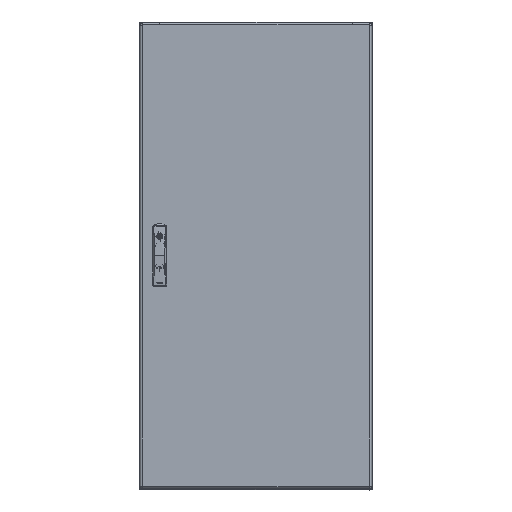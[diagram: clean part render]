
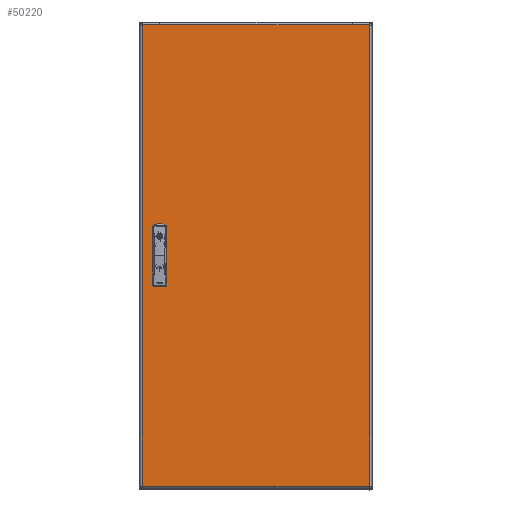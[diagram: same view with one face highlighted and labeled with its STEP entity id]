
A CAD part, top view. The second image highlights one B-rep face of the part: STEP entity #50220.
In plain terms, the highlighted planar face has unit normal (0, 0, 1).
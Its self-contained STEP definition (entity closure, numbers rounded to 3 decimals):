
#1193 = VERTEX_POINT ( 'NONE', #94882 ) ;
#1607 = ORIENTED_EDGE ( 'NONE', *, *, #100856, .T. ) ;
#3567 = VECTOR ( 'NONE', #88988, 1000. ) ;
#3779 = ORIENTED_EDGE ( 'NONE', *, *, #43224, .T. ) ;
#4313 = CARTESIAN_POINT ( 'NONE',  ( 292.3, -591., 0. ) ) ;
#4756 = VERTEX_POINT ( 'NONE', #53891 ) ;
#6041 = ORIENTED_EDGE ( 'NONE', *, *, #93954, .T. ) ;
#7101 = EDGE_CURVE ( 'NONE', #4756, #118203, #29507, .T. ) ;
#7287 = CIRCLE ( 'NONE', #89496, 1.3 ) ;
#7827 = VECTOR ( 'NONE', #120080, 1000. ) ;
#8839 = EDGE_LOOP ( 'NONE', ( #44151, #40952, #109509, #52219 ) ) ;
#11953 = CARTESIAN_POINT ( 'NONE',  ( -259.5, -75., 0. ) ) ;
#12595 = LINE ( 'NONE', #35415, #83496 ) ;
#14628 = FACE_OUTER_BOUND ( 'NONE', #17261, .T. ) ;
#14953 = EDGE_CURVE ( 'NONE', #25122, #124735, #103344, .T. ) ;
#14980 = DIRECTION ( 'NONE',  ( 0., 1., 0. ) ) ;
#17261 = EDGE_LOOP ( 'NONE', ( #79863, #121659, #1607, #3779, #101942, #82946, #6041, #127490 ) ) ;
#17698 = CARTESIAN_POINT ( 'NONE',  ( -259.5, -75., 0. ) ) ;
#18135 = DIRECTION ( 'NONE',  ( 1., 0., 0. ) ) ;
#18346 = CARTESIAN_POINT ( 'NONE',  ( -234.5, -75., 0. ) ) ;
#18587 = DIRECTION ( 'NONE',  ( 0., 0., 1. ) ) ;
#19580 = VERTEX_POINT ( 'NONE', #48474 ) ;
#19921 = AXIS2_PLACEMENT_3D ( 'NONE', #114280, #134208, #55476 ) ;
#20354 = EDGE_CURVE ( 'NONE', #53512, #84236, #38555, .T. ) ;
#25122 = VERTEX_POINT ( 'NONE', #68181 ) ;
#25278 = CARTESIAN_POINT ( 'NONE',  ( 292.3, -591., 0. ) ) ;
#27070 = CARTESIAN_POINT ( 'NONE',  ( -292.3, 591., 0. ) ) ;
#28599 = EDGE_CURVE ( 'NONE', #105953, #19580, #130422, .T. ) ;
#29507 = LINE ( 'NONE', #53055, #114330 ) ;
#31489 = AXIS2_PLACEMENT_3D ( 'NONE', #33297, #31845, #75999 ) ;
#31845 = DIRECTION ( 'NONE',  ( 0., 0., 1. ) ) ;
#33297 = CARTESIAN_POINT ( 'NONE',  ( 291., 591., 0. ) ) ;
#34473 = CARTESIAN_POINT ( 'NONE',  ( -292.3, 591., 0. ) ) ;
#35415 = CARTESIAN_POINT ( 'NONE',  ( -234.5, 75., 0. ) ) ;
#36335 = CIRCLE ( 'NONE', #19921, 1.3 ) ;
#36411 = DIRECTION ( 'NONE',  ( -1., 0., 0. ) ) ;
#38369 = VECTOR ( 'NONE', #49892, 1000. ) ;
#38555 = LINE ( 'NONE', #25278, #64541 ) ;
#38947 = PLANE ( 'NONE',  #52096 ) ;
#40952 = ORIENTED_EDGE ( 'NONE', *, *, #7101, .F. ) ;
#41241 = CARTESIAN_POINT ( 'NONE',  ( -259.5, 75., 0. ) ) ;
#42458 = CARTESIAN_POINT ( 'NONE',  ( -259.5, -25., 0. ) ) ;
#43224 = EDGE_CURVE ( 'NONE', #47277, #53512, #89867, .T. ) ;
#43331 = EDGE_CURVE ( 'NONE', #118203, #86868, #68075, .T. ) ;
#43352 = VECTOR ( 'NONE', #63941, 1000. ) ;
#44151 = ORIENTED_EDGE ( 'NONE', *, *, #43331, .F. ) ;
#44384 = LINE ( 'NONE', #11953, #76375 ) ;
#45955 = EDGE_CURVE ( 'NONE', #84236, #48983, #90228, .T. ) ;
#47115 = EDGE_CURVE ( 'NONE', #86868, #1193, #44384, .T. ) ;
#47277 = VERTEX_POINT ( 'NONE', #61930 ) ;
#47446 = CARTESIAN_POINT ( 'NONE',  ( -259.5, 75., 0. ) ) ;
#47768 = FACE_BOUND ( 'NONE', #74839, .T. ) ;
#48474 = CARTESIAN_POINT ( 'NONE',  ( -234.5, 25., 0. ) ) ;
#48596 = CARTESIAN_POINT ( 'NONE',  ( 292.3, 591., 0. ) ) ;
#48660 = VECTOR ( 'NONE', #55961, 1000. ) ;
#48983 = VERTEX_POINT ( 'NONE', #135344 ) ;
#49892 = DIRECTION ( 'NONE',  ( 0., -1., 0. ) ) ;
#50220 = ADVANCED_FACE ( 'NONE', ( #47768, #61701, #14628 ), #38947, .T. ) ;
#52041 = LINE ( 'NONE', #27070, #38369 ) ;
#52096 = AXIS2_PLACEMENT_3D ( 'NONE', #106562, #140461, #105835 ) ;
#52219 = ORIENTED_EDGE ( 'NONE', *, *, #47115, .F. ) ;
#53055 = CARTESIAN_POINT ( 'NONE',  ( -259.5, -25., 0. ) ) ;
#53409 = CARTESIAN_POINT ( 'NONE',  ( 291., -591., 0. ) ) ;
#53512 = VERTEX_POINT ( 'NONE', #4313 ) ;
#53891 = CARTESIAN_POINT ( 'NONE',  ( -234.5, -25., 0. ) ) ;
#55476 = DIRECTION ( 'NONE',  ( 1., 0., 0. ) ) ;
#55588 = DIRECTION ( 'NONE',  ( 0., -1., 0. ) ) ;
#55961 = DIRECTION ( 'NONE',  ( 1., 0., 0. ) ) ;
#58120 = CARTESIAN_POINT ( 'NONE',  ( -291., -592.3, 0. ) ) ;
#59979 = CARTESIAN_POINT ( 'NONE',  ( -292.3, -591., 0. ) ) ;
#61233 = VERTEX_POINT ( 'NONE', #34473 ) ;
#61701 = FACE_BOUND ( 'NONE', #8839, .T. ) ;
#61814 = ORIENTED_EDGE ( 'NONE', *, *, #104737, .F. ) ;
#61930 = CARTESIAN_POINT ( 'NONE',  ( 291., -592.3, 0. ) ) ;
#63941 = DIRECTION ( 'NONE',  ( 0., 1., 0. ) ) ;
#64155 = CARTESIAN_POINT ( 'NONE',  ( -259.5, 25., 0. ) ) ;
#64370 = ORIENTED_EDGE ( 'NONE', *, *, #28599, .F. ) ;
#64541 = VECTOR ( 'NONE', #14980, 1000. ) ;
#65411 = LINE ( 'NONE', #18346, #43352 ) ;
#65560 = LINE ( 'NONE', #77326, #99377 ) ;
#68075 = LINE ( 'NONE', #112930, #108367 ) ;
#68181 = CARTESIAN_POINT ( 'NONE',  ( -234.5, 75., 0. ) ) ;
#71836 = EDGE_CURVE ( 'NONE', #1193, #4756, #65411, .T. ) ;
#74372 = EDGE_CURVE ( 'NONE', #19580, #25122, #12595, .T. ) ;
#74417 = DIRECTION ( 'NONE',  ( -1., 0., 0. ) ) ;
#74839 = EDGE_LOOP ( 'NONE', ( #92529, #64370, #61814, #138598 ) ) ;
#75999 = DIRECTION ( 'NONE',  ( 1., 0., 0. ) ) ;
#76375 = VECTOR ( 'NONE', #79662, 1000. ) ;
#77326 = CARTESIAN_POINT ( 'NONE',  ( 291., 592.3, 0. ) ) ;
#79245 = VERTEX_POINT ( 'NONE', #87350 ) ;
#79662 = DIRECTION ( 'NONE',  ( 1., 0., 0. ) ) ;
#79863 = ORIENTED_EDGE ( 'NONE', *, *, #138329, .T. ) ;
#82946 = ORIENTED_EDGE ( 'NONE', *, *, #45955, .T. ) ;
#83496 = VECTOR ( 'NONE', #128089, 1000. ) ;
#84236 = VERTEX_POINT ( 'NONE', #48596 ) ;
#86283 = CARTESIAN_POINT ( 'NONE',  ( -291., 591., 0. ) ) ;
#86868 = VERTEX_POINT ( 'NONE', #17698 ) ;
#87350 = CARTESIAN_POINT ( 'NONE',  ( -291., -592.3, 0. ) ) ;
#88988 = DIRECTION ( 'NONE',  ( 0., -1., 0. ) ) ;
#89496 = AXIS2_PLACEMENT_3D ( 'NONE', #86283, #18587, #97298 ) ;
#89867 = CIRCLE ( 'NONE', #108664, 1.3 ) ;
#90228 = CIRCLE ( 'NONE', #31489, 1.3 ) ;
#91948 = EDGE_CURVE ( 'NONE', #144887, #61233, #7287, .T. ) ;
#92529 = ORIENTED_EDGE ( 'NONE', *, *, #74372, .F. ) ;
#93954 = EDGE_CURVE ( 'NONE', #48983, #144887, #65560, .T. ) ;
#94882 = CARTESIAN_POINT ( 'NONE',  ( -234.5, -75., 0. ) ) ;
#97298 = DIRECTION ( 'NONE',  ( 1., 0., 0. ) ) ;
#99377 = VECTOR ( 'NONE', #107522, 1000. ) ;
#100856 = EDGE_CURVE ( 'NONE', #79245, #47277, #123673, .T. ) ;
#101942 = ORIENTED_EDGE ( 'NONE', *, *, #20354, .T. ) ;
#103344 = LINE ( 'NONE', #47446, #134151 ) ;
#104209 = EDGE_CURVE ( 'NONE', #121677, #79245, #36335, .T. ) ;
#104737 = EDGE_CURVE ( 'NONE', #124735, #105953, #122128, .T. ) ;
#105835 = DIRECTION ( 'NONE',  ( 1., 0., 0. ) ) ;
#105953 = VERTEX_POINT ( 'NONE', #128694 ) ;
#106562 = CARTESIAN_POINT ( 'NONE',  ( 0., 0., 0. ) ) ;
#107522 = DIRECTION ( 'NONE',  ( -1., 0., 0. ) ) ;
#108367 = VECTOR ( 'NONE', #55588, 1000. ) ;
#108664 = AXIS2_PLACEMENT_3D ( 'NONE', #53409, #143188, #18135 ) ;
#109509 = ORIENTED_EDGE ( 'NONE', *, *, #71836, .F. ) ;
#112930 = CARTESIAN_POINT ( 'NONE',  ( -259.5, -75., 0. ) ) ;
#114280 = CARTESIAN_POINT ( 'NONE',  ( -291., -591., 0. ) ) ;
#114330 = VECTOR ( 'NONE', #74417, 1000. ) ;
#115734 = CARTESIAN_POINT ( 'NONE',  ( -259.5, 75., 0. ) ) ;
#118203 = VERTEX_POINT ( 'NONE', #42458 ) ;
#120080 = DIRECTION ( 'NONE',  ( 1., 0., 0. ) ) ;
#121659 = ORIENTED_EDGE ( 'NONE', *, *, #104209, .T. ) ;
#121677 = VERTEX_POINT ( 'NONE', #59979 ) ;
#122128 = LINE ( 'NONE', #41241, #3567 ) ;
#123673 = LINE ( 'NONE', #58120, #48660 ) ;
#124735 = VERTEX_POINT ( 'NONE', #115734 ) ;
#125275 = CARTESIAN_POINT ( 'NONE',  ( -291., 592.3, 0. ) ) ;
#127490 = ORIENTED_EDGE ( 'NONE', *, *, #91948, .T. ) ;
#128089 = DIRECTION ( 'NONE',  ( 0., 1., 0. ) ) ;
#128694 = CARTESIAN_POINT ( 'NONE',  ( -259.5, 25., 0. ) ) ;
#130422 = LINE ( 'NONE', #64155, #7827 ) ;
#134151 = VECTOR ( 'NONE', #36411, 1000. ) ;
#134208 = DIRECTION ( 'NONE',  ( 0., 0., 1. ) ) ;
#135344 = CARTESIAN_POINT ( 'NONE',  ( 291., 592.3, 0. ) ) ;
#138329 = EDGE_CURVE ( 'NONE', #61233, #121677, #52041, .T. ) ;
#138598 = ORIENTED_EDGE ( 'NONE', *, *, #14953, .F. ) ;
#140461 = DIRECTION ( 'NONE',  ( 0., 0., 1. ) ) ;
#143188 = DIRECTION ( 'NONE',  ( 0., 0., 1. ) ) ;
#144887 = VERTEX_POINT ( 'NONE', #125275 ) ;
